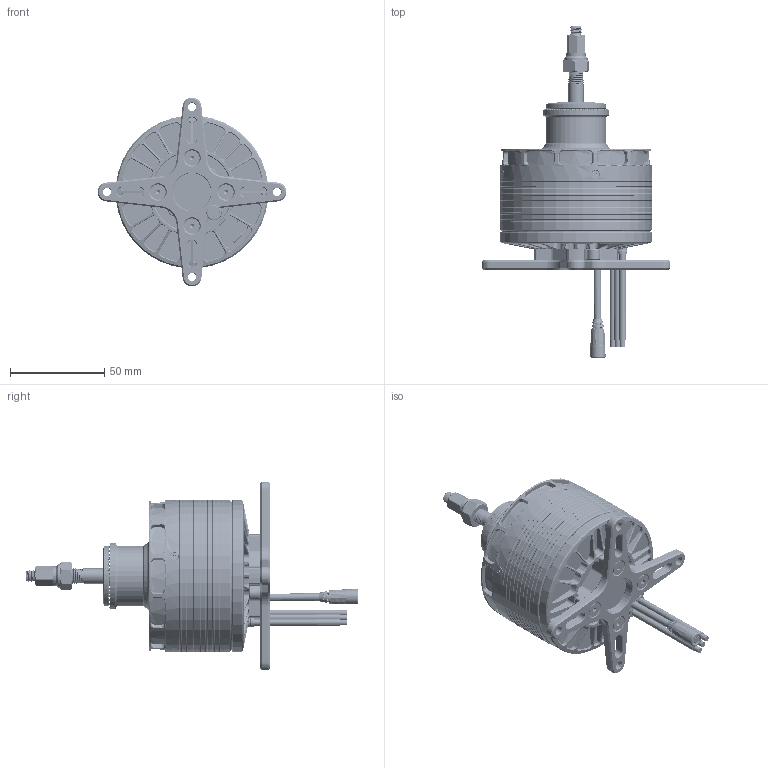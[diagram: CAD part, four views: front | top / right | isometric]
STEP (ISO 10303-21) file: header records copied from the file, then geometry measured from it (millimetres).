
FILE_DESCRIPTION (( 'STEP AP203' ), '1' );
FILE_NAME ('HT-7225-萇儂3D-勤俋-湍饜璃.STEP', '2024-11-27T07:14:53', ( '' ), ( '' ), 'SwSTEP 2.0', 'SolidWorks 2021', '' );
FILE_SCHEMA (( 'CONFIG_CONTROL_DESIGN' ));
Length unit declared in the file: millimetre
Products named in the file (11): 104110176A0-螺钉-M4x16-内六角圆柱头-黑色; 104110687A0-螺钉-M4x12-内六角沉头-黑色; HT-7225-萇儂3D-勤俋-湍饜璃; 104120073A1-六角螺母-M8x1.0-自锁-本色-A; 蔑標郪璃-7225; 111350182A1-蔑標釱-72炵蹈-窪伎; HT-7225-萇儂3D-勤俋; 110540021A2&111540021A2-固定支架-72系列-黑色+亮边; 111350183A1-蔑標粣-72炵蹈-掛伎; 104130275A1-垫圈-D32xD8.1xt3.5-黑色; 104120070A0-六角螺母-M6x0.75-左旋-本色
Assembly tree (16 placements, depth 3):
  HT-7225-萇儂3D-勤俋-湍饜璃
    HT-7225-萇儂3D-勤俋
    蔑標郪璃-7225
      111350182A1-蔑標釱-72炵蹈-窪伎
      111350183A1-蔑標粣-72炵蹈-掛伎
      104130275A1-垫圈-D32xD8.1xt3.5-黑色
      104120073A1-六角螺母-M8x1.0-自锁-本色-A
      104120070A0-六角螺母-M6x0.75-左旋-本色
    104110176A0-螺钉-M4x16-内六角圆柱头-黑色  x4
    110540021A2&111540021A2-固定支架-72系列-黑色+亮边
    104110687A0-螺钉-M4x12-内六角沉头-黑色  x4
Bounding box: 100 x 175.68 x 99.96 mm (x, y, z)
Volume: 289147.6 mm3; surface area: 56443.7 mm2
Topology: 23 solids, 25 shells, 4608 faces, 12025 edges, 7589 vertices
Faces by surface type: plane 2365, cylinder 1289, cone 678, bspline 242, torus 34
Entity records: 182416 total; most frequent: CARTESIAN_POINT 93859, ORIENTED_EDGE 19246, DIRECTION 16928, EDGE_CURVE 9623, VERTEX_POINT 6038, AXIS2_PLACEMENT_3D 5932, LINE 5064, VECTOR 5064
